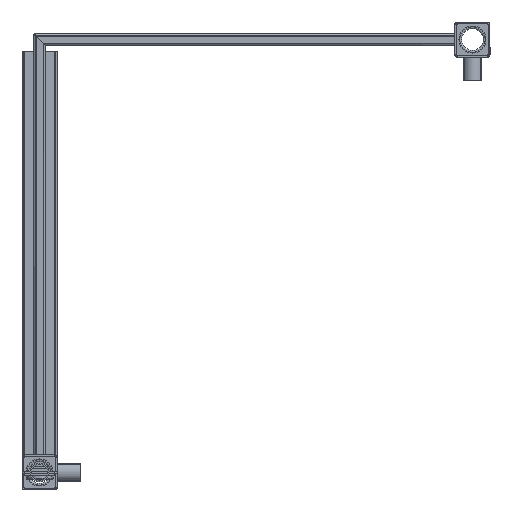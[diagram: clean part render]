
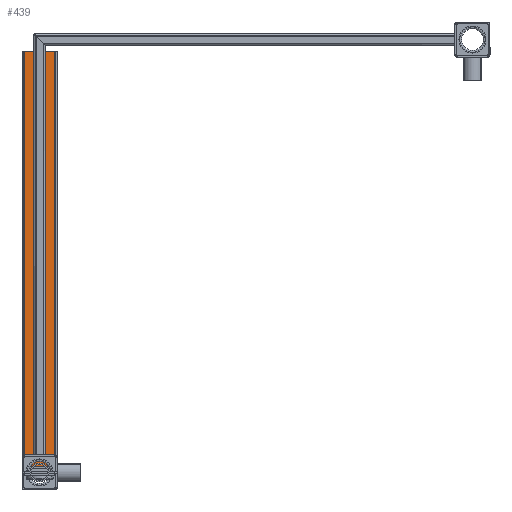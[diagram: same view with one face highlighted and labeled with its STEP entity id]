
A CAD part, front view. The second image highlights one B-rep face of the part: STEP entity #439.
In plain terms, the highlighted planar face has unit normal (0, -1, 0) as drawn and (0, 0, 1) by its records, which use the part's own axes.
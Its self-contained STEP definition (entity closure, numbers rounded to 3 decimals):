
#439 = ADVANCED_FACE( '', ( #1006 ), #1007, .T. );
#1006 = FACE_OUTER_BOUND( '', #1773, .T. );
#1007 = PLANE( '', #1774 );
#1773 = EDGE_LOOP( '', ( #2963, #2964, #2965, #2966 ) );
#1774 = AXIS2_PLACEMENT_3D( '', #2967, #2968, #2969 );
#2963 = ORIENTED_EDGE( '', *, *, #4725, .F. );
#2964 = ORIENTED_EDGE( '', *, *, #4413, .T. );
#2965 = ORIENTED_EDGE( '', *, *, #4726, .F. );
#2966 = ORIENTED_EDGE( '', *, *, #4727, .T. );
#2967 = CARTESIAN_POINT( '', ( 15., 389.28, 5. ) );
#2968 = DIRECTION( '', ( 0., 0., 1. ) );
#2969 = DIRECTION( '', ( 1., 0., 0. ) );
#4413 = EDGE_CURVE( '', #5264, #5268, #5270, .F. );
#4725 = EDGE_CURVE( '', #5264, #5787, #5788, .T. );
#4726 = EDGE_CURVE( '', #5789, #5268, #5790, .T. );
#4727 = EDGE_CURVE( '', #5789, #5787, #5791, .T. );
#5264 = VERTEX_POINT( '', #6506 );
#5268 = VERTEX_POINT( '', #6511 );
#5270 = LINE( '', #6513, #6514 );
#5787 = VERTEX_POINT( '', #7205 );
#5788 = LINE( '', #7206, #7207 );
#5789 = VERTEX_POINT( '', #7208 );
#5790 = LINE( '', #7209, #7210 );
#5791 = LINE( '', #7211, #7212 );
#6506 = CARTESIAN_POINT( '', ( 13., 25., 5. ) );
#6511 = CARTESIAN_POINT( '', ( 13., 380., 5. ) );
#6513 = CARTESIAN_POINT( '', ( 13., 389.28, 5. ) );
#6514 = VECTOR( '', #8079, 1000. );
#7205 = CARTESIAN_POINT( '', ( -13., 25., 5. ) );
#7206 = CARTESIAN_POINT( '', ( 15., 25., 5. ) );
#7207 = VECTOR( '', #8461, 1000. );
#7208 = CARTESIAN_POINT( '', ( -13., 380., 5. ) );
#7209 = CARTESIAN_POINT( '', ( -15., 380., 5. ) );
#7210 = VECTOR( '', #8462, 1000. );
#7211 = CARTESIAN_POINT( '', ( -13., 389.28, 5. ) );
#7212 = VECTOR( '', #8463, 1000. );
#8079 = DIRECTION( '', ( 0., -1., 0. ) );
#8461 = DIRECTION( '', ( -1., 0., 0. ) );
#8462 = DIRECTION( '', ( 1., 0., 0. ) );
#8463 = DIRECTION( '', ( 0., -1., 0. ) );
